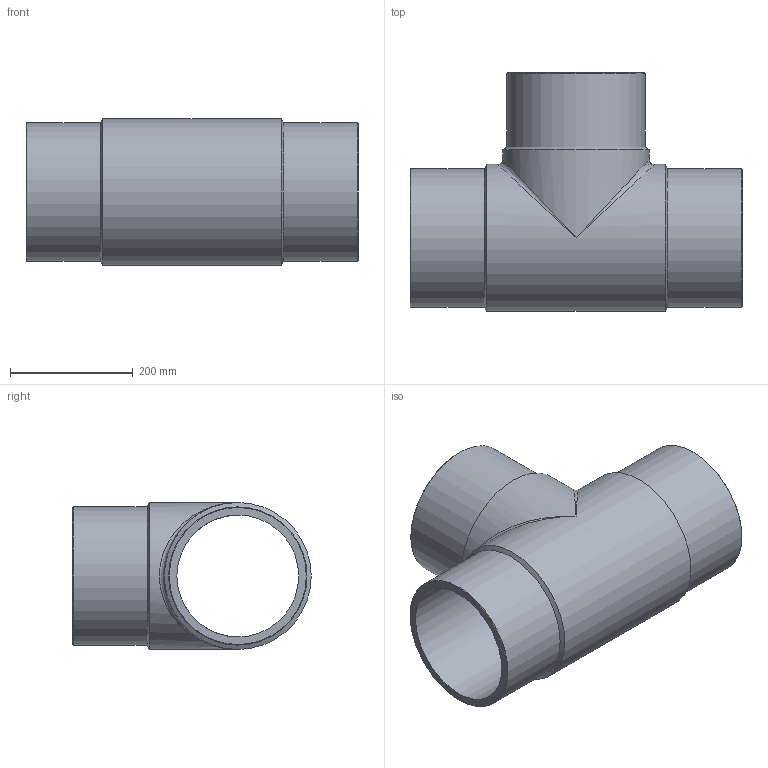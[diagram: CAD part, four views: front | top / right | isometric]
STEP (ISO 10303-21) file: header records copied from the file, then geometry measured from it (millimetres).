
FILE_DESCRIPTION(/* description */ ('Unknown'),/* implementation_level */ '2;1');
FILE_NAME(/* name */ 'TP225G',/* time_stamp */ '2021-08-06T10:04:38+02:00',/* author */ ('Unknown'),/* organization */ ('Unknown'),/* preprocessor_version */ 'ST-DEVELOPER v16.7',/* originating_system */ 'Solid Edge',/* authorisation */ 'Unknown');
FILE_SCHEMA (('AUTOMOTIVE_DESIGN {1 0 10303 214 3 1 1}'));
Length unit declared in the file: millimetre
Products named in the file (1): TP225G
Bounding box: 540 x 388 x 239 mm (x, y, z)
Volume: 7491708.2 mm3; surface area: 934806.3 mm2
Topology: 1 solids, 1 shells, 18 faces, 44 edges, 23 vertices
Faces by surface type: cylinder 7, cone 6, plane 3, bspline 2
Full cylindrical faces by diameter (mm): 198.2 x2, 225 x3, 239 x2
Entity records: 528 total; most frequent: CARTESIAN_POINT 171, DIRECTION 76, ORIENTED_EDGE 42, AXIS2_PLACEMENT_3D 38, EDGE_LOOP 36, FACE_BOUND 36, EDGE_CURVE 21, VERTEX_POINT 19
